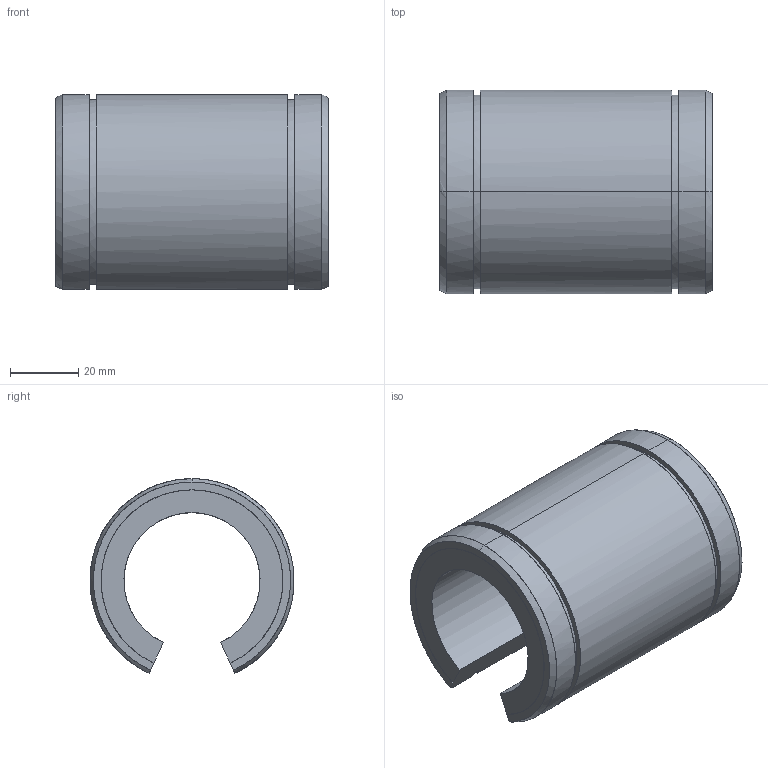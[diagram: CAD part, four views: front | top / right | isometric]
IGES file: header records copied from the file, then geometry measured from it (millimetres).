
Global section: file name: No Iges File Name specified; native system: AutoDesk Inventor R10; preprocessor: AutoDesk Inventor Iges Exporter R10; author: No Author specified; organization: No Organization specified; date: 20101208.113307; units: millimetre
Bounding box: 80 x 59.93 x 57.21 mm (x, y, z)
Surface area: 26625.1 mm2 (no closed solid volume)
Topology: 0 solids, 0 shells, 30 faces, 252 edges, 252 vertices
Faces by surface type: bspline 30
